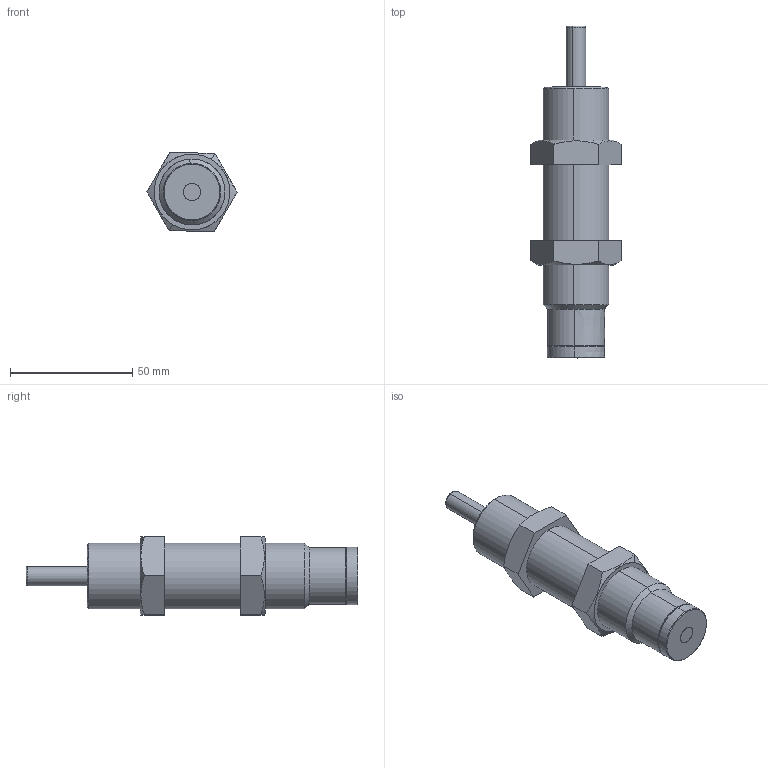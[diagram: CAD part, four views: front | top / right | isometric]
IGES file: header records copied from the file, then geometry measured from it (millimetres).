
Start section: SolidWorks IGES file using analytic representation for surfaces
Bounding box: 36.95 x 136 x 32.16 mm (x, y, z)
Surface area: 15894.3 mm2 (no closed solid volume)
Topology: 0 solids, 0 shells, 90 faces, 1559 edges, 1559 vertices
Faces by surface type: revolution 48, bspline 42
